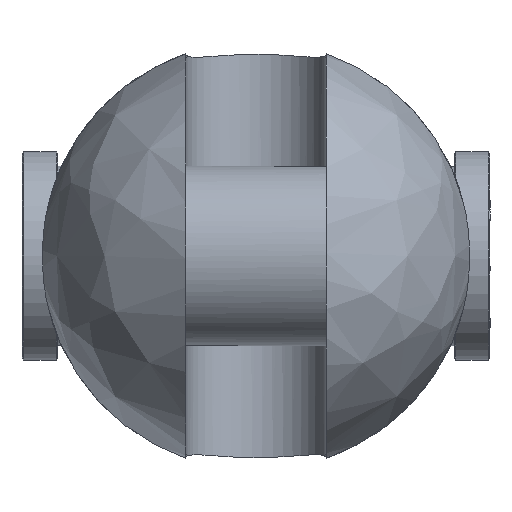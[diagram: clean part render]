
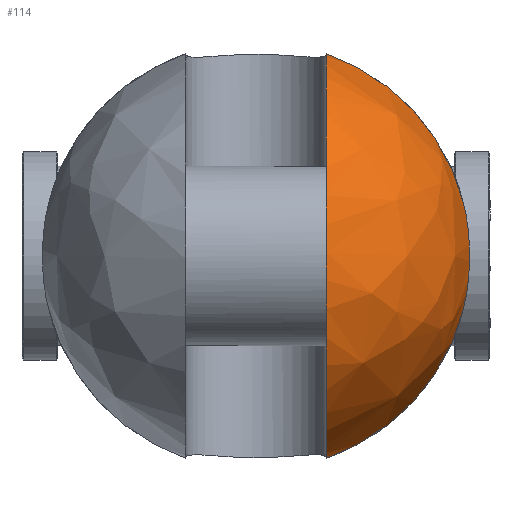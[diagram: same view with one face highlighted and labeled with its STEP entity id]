
A CAD part, left-side view. The second image highlights one B-rep face of the part: STEP entity #114.
In plain terms, the highlighted free-form (B-spline) face has degree [2, 2] with [9, 5] control points.
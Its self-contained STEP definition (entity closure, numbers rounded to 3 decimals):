
#114=ADVANCED_FACE('',(#202),#1530,.T.);
#202=FACE_OUTER_BOUND('',#302,.T.);
#302=EDGE_LOOP('',(#744,#745,#746,#747));
#744=ORIENTED_EDGE('',*,*,#1001,.T.);
#745=ORIENTED_EDGE('',*,*,#998,.F.);
#746=ORIENTED_EDGE('',*,*,#1018,.T.);
#747=ORIENTED_EDGE('',*,*,#990,.F.);
#990=EDGE_CURVE('',#1420,#1421,#1252,.T.);
#998=EDGE_CURVE('',#1428,#1429,#1253,.T.);
#1001=EDGE_CURVE('',#1420,#1429,#1255,.T.);
#1018=EDGE_CURVE('',#1428,#1421,#1127,.T.);
#1127=B_SPLINE_CURVE_WITH_KNOTS('',3,(#3647,#3648,#3649,#3650,#3651,#3652,
#3653,#3654,#3655,#3656,#3657,#3658,#3659,#3660),.UNSPECIFIED.,.F.,.F.,
(4,2,2,2,2,2,4),(0.,3.421,9.625,15.83,22.034,
28.238,31.66),.UNSPECIFIED.);
#1252=(
BOUNDED_CURVE()
B_SPLINE_CURVE(2,(#3497,#3498,#3499),.UNSPECIFIED.,.F.,.F.)
B_SPLINE_CURVE_WITH_KNOTS((3,3),(0.,58.466),.UNSPECIFIED.)
CURVE()
GEOMETRIC_REPRESENTATION_ITEM()
RATIONAL_B_SPLINE_CURVE((1.,0.882,1.))
REPRESENTATION_ITEM('')
);
#1253=(
BOUNDED_CURVE()
B_SPLINE_CURVE(2,(#3554,#3555,#3556),.UNSPECIFIED.,.F.,.F.)
B_SPLINE_CURVE_WITH_KNOTS((3,3),(0.,58.466),.UNSPECIFIED.)
CURVE()
GEOMETRIC_REPRESENTATION_ITEM()
RATIONAL_B_SPLINE_CURVE((1.,0.882,1.))
REPRESENTATION_ITEM('')
);
#1255=(
BOUNDED_CURVE()
B_SPLINE_CURVE(2,(#3562,#3563,#3564,#3565,#3566),.UNSPECIFIED.,.F.,.F.)
B_SPLINE_CURVE_WITH_KNOTS((3,2,3),(-176.601,-88.301,
0.),.UNSPECIFIED.)
CURVE()
GEOMETRIC_REPRESENTATION_ITEM()
RATIONAL_B_SPLINE_CURVE((1.,0.707,1.,0.707,1.))
REPRESENTATION_ITEM('')
);
#1420=VERTEX_POINT('',#3297);
#1421=VERTEX_POINT('',#3298);
#1428=VERTEX_POINT('',#3305);
#1429=VERTEX_POINT('',#3306);
#1530=(
BOUNDED_SURFACE()
B_SPLINE_SURFACE(2,2,((#3169,#3170,#3171,#3172,#3173),(#3174,#3175,#3176,
#3177,#3178),(#3179,#3180,#3181,#3182,#3183),(#3184,#3185,#3186,#3187,#3188),
(#3189,#3190,#3191,#3192,#3193),(#3194,#3195,#3196,#3197,#3198),(#3199,
#3200,#3201,#3202,#3203),(#3204,#3205,#3206,#3207,#3208),(#3209,#3210,#3211,
#3212,#3213)),.UNSPECIFIED.,.T.,.F.,.F.)
B_SPLINE_SURFACE_WITH_KNOTS((3,2,2,2,3),(3,2,3),(0.,93.462,186.925,
280.387,373.85),(0.,93.462,186.925),
 .UNSPECIFIED.)
GEOMETRIC_REPRESENTATION_ITEM()
RATIONAL_B_SPLINE_SURFACE(((1.,0.707,1.,0.707,1.),
(0.707,0.5,0.707,0.5,0.707),(1.,0.707,
1.,0.707,1.),(0.707,0.5,0.707,0.5,0.707),
(1.,0.707,1.,0.707,1.),(0.707,0.5,0.707,
0.5,0.707),(1.,0.707,1.,0.707,1.),(0.707,
0.5,0.707,0.5,0.707),(1.,0.707,1.,0.707,
1.)))
REPRESENTATION_ITEM('')
SURFACE()
);
#3169=CARTESIAN_POINT('',(-85.5,0.,0.));
#3170=CARTESIAN_POINT('',(-85.5,59.5,0.));
#3171=CARTESIAN_POINT('',(-26.,59.5,0.));
#3172=CARTESIAN_POINT('',(33.5,59.5,0.));
#3173=CARTESIAN_POINT('',(33.5,0.,0.));
#3174=CARTESIAN_POINT('',(-85.5,0.,0.));
#3175=CARTESIAN_POINT('',(-85.5,59.5,59.5));
#3176=CARTESIAN_POINT('',(-26.,59.5,59.5));
#3177=CARTESIAN_POINT('',(33.5,59.5,59.5));
#3178=CARTESIAN_POINT('',(33.5,0.,0.));
#3179=CARTESIAN_POINT('',(-85.5,0.,0.));
#3180=CARTESIAN_POINT('',(-85.5,0.,59.5));
#3181=CARTESIAN_POINT('',(-26.,0.,59.5));
#3182=CARTESIAN_POINT('',(33.5,0.,59.5));
#3183=CARTESIAN_POINT('',(33.5,0.,0.));
#3184=CARTESIAN_POINT('',(-85.5,0.,0.));
#3185=CARTESIAN_POINT('',(-85.5,-59.5,59.5));
#3186=CARTESIAN_POINT('',(-26.,-59.5,59.5));
#3187=CARTESIAN_POINT('',(33.5,-59.5,59.5));
#3188=CARTESIAN_POINT('',(33.5,0.,0.));
#3189=CARTESIAN_POINT('',(-85.5,0.,0.));
#3190=CARTESIAN_POINT('',(-85.5,-59.5,0.));
#3191=CARTESIAN_POINT('',(-26.,-59.5,0.));
#3192=CARTESIAN_POINT('',(33.5,-59.5,0.));
#3193=CARTESIAN_POINT('',(33.5,0.,0.));
#3194=CARTESIAN_POINT('',(-85.5,0.,0.));
#3195=CARTESIAN_POINT('',(-85.5,-59.5,-59.5));
#3196=CARTESIAN_POINT('',(-26.,-59.5,-59.5));
#3197=CARTESIAN_POINT('',(33.5,-59.5,-59.5));
#3198=CARTESIAN_POINT('',(33.5,0.,0.));
#3199=CARTESIAN_POINT('',(-85.5,0.,0.));
#3200=CARTESIAN_POINT('',(-85.5,0.,-59.5));
#3201=CARTESIAN_POINT('',(-26.,0.,-59.5));
#3202=CARTESIAN_POINT('',(33.5,0.,-59.5));
#3203=CARTESIAN_POINT('',(33.5,0.,0.));
#3204=CARTESIAN_POINT('',(-85.5,0.,0.));
#3205=CARTESIAN_POINT('',(-85.5,59.5,-59.5));
#3206=CARTESIAN_POINT('',(-26.,59.5,-59.5));
#3207=CARTESIAN_POINT('',(33.5,59.5,-59.5));
#3208=CARTESIAN_POINT('',(33.5,0.,0.));
#3209=CARTESIAN_POINT('',(-85.5,0.,0.));
#3210=CARTESIAN_POINT('',(-85.5,59.5,0.));
#3211=CARTESIAN_POINT('',(-26.,59.5,0.));
#3212=CARTESIAN_POINT('',(33.5,59.5,0.));
#3213=CARTESIAN_POINT('',(33.5,0.,0.));
#3297=CARTESIAN_POINT('',(-26.,-19.5,56.214));
#3298=CARTESIAN_POINT('',(-26.,-57.587,14.967));
#3305=CARTESIAN_POINT('',(-26.,-57.587,-14.967));
#3306=CARTESIAN_POINT('',(-26.,-19.5,-56.214));
#3497=CARTESIAN_POINT('',(-26.,-19.5,56.214));
#3498=CARTESIAN_POINT('',(-26.,-49.579,45.78));
#3499=CARTESIAN_POINT('',(-26.,-57.587,14.967));
#3554=CARTESIAN_POINT('',(-26.,-57.587,-14.967));
#3555=CARTESIAN_POINT('',(-26.,-49.579,-45.78));
#3556=CARTESIAN_POINT('',(-26.,-19.5,-56.214));
#3562=CARTESIAN_POINT('',(-26.,-19.5,56.214));
#3563=CARTESIAN_POINT('',(-82.214,-19.5,56.214));
#3564=CARTESIAN_POINT('',(-82.214,-19.5,0.));
#3565=CARTESIAN_POINT('',(-82.214,-19.5,-56.214));
#3566=CARTESIAN_POINT('',(-26.,-19.5,-56.214));
#3647=CARTESIAN_POINT('',(-26.,-57.587,-14.967));
#3648=CARTESIAN_POINT('',(-26.561,-57.84,-13.992));
#3649=CARTESIAN_POINT('',(-27.071,-58.069,-12.979));
#3650=CARTESIAN_POINT('',(-28.343,-58.636,-10.046));
#3651=CARTESIAN_POINT('',(-28.971,-58.913,-8.056));
#3652=CARTESIAN_POINT('',(-29.8,-59.278,-4.025));
#3653=CARTESIAN_POINT('',(-30.,-59.365,-1.984));
#3654=CARTESIAN_POINT('',(-30.,-59.365,1.984));
#3655=CARTESIAN_POINT('',(-29.8,-59.278,4.025));
#3656=CARTESIAN_POINT('',(-28.971,-58.913,8.056));
#3657=CARTESIAN_POINT('',(-28.343,-58.636,10.046));
#3658=CARTESIAN_POINT('',(-27.071,-58.069,12.979));
#3659=CARTESIAN_POINT('',(-26.561,-57.84,13.992));
#3660=CARTESIAN_POINT('',(-26.,-57.587,14.967));
